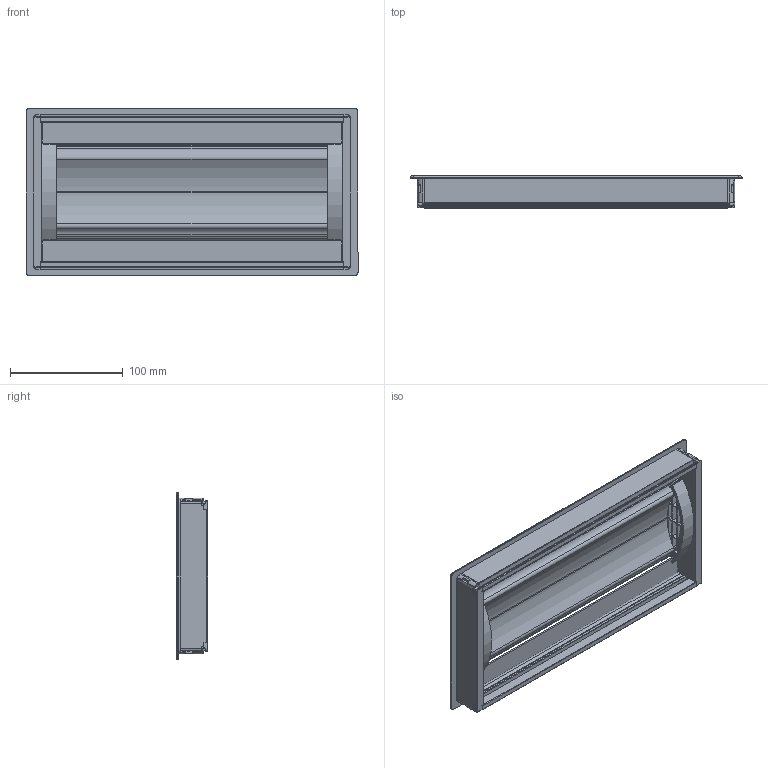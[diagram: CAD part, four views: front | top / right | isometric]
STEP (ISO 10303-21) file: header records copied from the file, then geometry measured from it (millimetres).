
FILE_DESCRIPTION((''),'2;1');
FILE_NAME('P:\Manufacturing\Autocad drawings\Inventor\blocks\PMPY - blocks\PMPY LID 45 - Block.stp','2021-02-19T14:24:04',('ScottReyner'),(''),'Autodesk Inventor 2012','Autodesk Inventor 2012','');
FILE_SCHEMA(('AUTOMOTIVE_DESIGN { 1 0 10303 214 1 1 1 1 }'));
Length unit declared in the file: millimetre
Products named in the file (1): PMPY LID 45 - Block
Bounding box: 294 x 28.1 x 148 mm (x, y, z)
Volume: 288064 mm3; surface area: 209094 mm2
Topology: 8 solids, 8 shells, 996 faces, 2647 edges, 1665 vertices
Faces by surface type: plane 450, cylinder 312, cone 70, bspline 66, torus 65, sphere 30, revolution 3
Full cylindrical faces by diameter (mm): 4 x4, 8 x2
Entity records: 33313 total; most frequent: CARTESIAN_POINT 8869, ORIENTED_EDGE 5166, DIRECTION 5121, EDGE_CURVE 2583, AXIS2_PLACEMENT_3D 1860, VERTEX_POINT 1649, VECTOR 1398, LINE 1398
